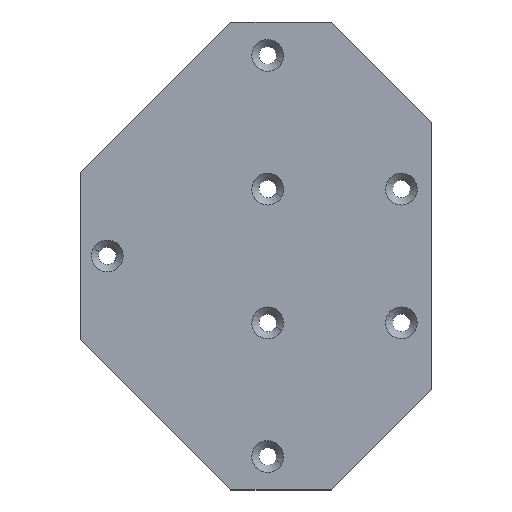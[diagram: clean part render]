
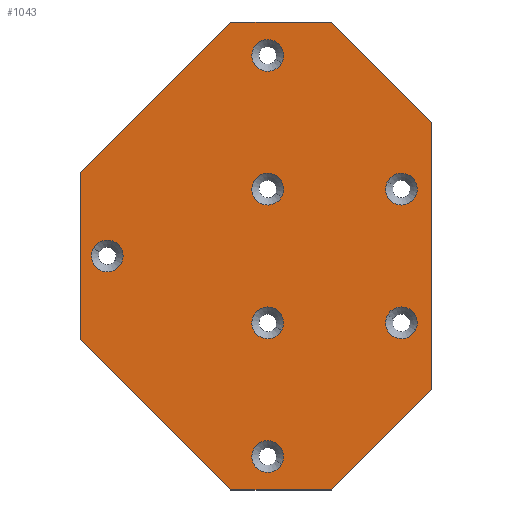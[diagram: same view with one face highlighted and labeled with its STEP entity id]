
A CAD part, top view. The second image highlights one B-rep face of the part: STEP entity #1043.
In plain terms, the highlighted planar face has unit normal (0, 0, 1).
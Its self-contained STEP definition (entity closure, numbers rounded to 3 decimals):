
#134=CARTESIAN_POINT('Vertex',(-50.,25.,6.)) ;
#148=CARTESIAN_POINT('Vertex',(-50.,-25.,6.)) ;
#151=CARTESIAN_POINT('Line Origine',(-50.,0.,6.)) ;
#174=CARTESIAN_POINT('Vertex',(-5.,-70.,6.)) ;
#188=CARTESIAN_POINT('Vertex',(25.,-70.,6.)) ;
#191=CARTESIAN_POINT('Line Origine',(10.,-70.,6.)) ;
#219=CARTESIAN_POINT('Vertex',(55.,-40.,6.)) ;
#222=CARTESIAN_POINT('Line Origine',(40.,-55.,6.)) ;
#250=CARTESIAN_POINT('Vertex',(55.,40.,6.)) ;
#253=CARTESIAN_POINT('Line Origine',(55.,0.,6.)) ;
#281=CARTESIAN_POINT('Vertex',(25.,70.,6.)) ;
#284=CARTESIAN_POINT('Line Origine',(40.,55.,6.)) ;
#307=CARTESIAN_POINT('Vertex',(-5.,70.,6.)) ;
#310=CARTESIAN_POINT('Line Origine',(10.,70.,6.)) ;
#632=CARTESIAN_POINT('Axis2P3D Location',(6.,-60.,6.)) ;
#636=CARTESIAN_POINT('Vertex',(10.169,-62.277,6.)) ;
#638=CARTESIAN_POINT('Vertex',(1.831,-57.723,6.)) ;
#658=CARTESIAN_POINT('Axis2P3D Location',(6.,-60.,6.)) ;
#675=CARTESIAN_POINT('Axis2P3D Location',(6.,60.,6.)) ;
#679=CARTESIAN_POINT('Vertex',(10.169,57.723,6.)) ;
#681=CARTESIAN_POINT('Vertex',(1.831,62.277,6.)) ;
#701=CARTESIAN_POINT('Axis2P3D Location',(6.,60.,6.)) ;
#718=CARTESIAN_POINT('Axis2P3D Location',(-42.,0.,6.)) ;
#722=CARTESIAN_POINT('Vertex',(-37.831,-2.277,6.)) ;
#724=CARTESIAN_POINT('Vertex',(-46.169,2.277,6.)) ;
#744=CARTESIAN_POINT('Axis2P3D Location',(-42.,0.,6.)) ;
#766=CARTESIAN_POINT('Line Origine',(-27.5,47.5,6.)) ;
#788=CARTESIAN_POINT('Line Origine',(-27.5,-47.5,6.)) ;
#805=CARTESIAN_POINT('Axis2P3D Location',(46.,-20.,6.)) ;
#809=CARTESIAN_POINT('Vertex',(50.169,-22.277,6.)) ;
#811=CARTESIAN_POINT('Vertex',(41.831,-17.723,6.)) ;
#853=CARTESIAN_POINT('Axis2P3D Location',(46.,-20.,6.)) ;
#958=CARTESIAN_POINT('Axis2P3D Location',(0.,0.,6.)) ;
#989=CARTESIAN_POINT('Axis2P3D Location',(6.,-20.,6.)) ;
#993=CARTESIAN_POINT('Vertex',(10.169,-22.277,6.)) ;
#995=CARTESIAN_POINT('Vertex',(1.831,-17.723,6.)) ;
#998=CARTESIAN_POINT('Axis2P3D Location',(6.,-20.,6.)) ;
#1007=CARTESIAN_POINT('Axis2P3D Location',(46.,20.,6.)) ;
#1011=CARTESIAN_POINT('Vertex',(50.169,17.723,6.)) ;
#1013=CARTESIAN_POINT('Vertex',(41.831,22.277,6.)) ;
#1016=CARTESIAN_POINT('Axis2P3D Location',(46.,20.,6.)) ;
#1025=CARTESIAN_POINT('Axis2P3D Location',(6.,20.,6.)) ;
#1029=CARTESIAN_POINT('Vertex',(10.169,17.723,6.)) ;
#1031=CARTESIAN_POINT('Vertex',(1.831,22.277,6.)) ;
#1034=CARTESIAN_POINT('Axis2P3D Location',(6.,20.,6.)) ;
#152=DIRECTION('Vector Direction',(0.,1.,0.)) ;
#192=DIRECTION('Vector Direction',(-1.,0.,0.)) ;
#223=DIRECTION('Vector Direction',(-0.707,-0.707,0.)) ;
#254=DIRECTION('Vector Direction',(0.,-1.,0.)) ;
#285=DIRECTION('Vector Direction',(0.707,-0.707,0.)) ;
#311=DIRECTION('Vector Direction',(1.,0.,0.)) ;
#633=DIRECTION('Axis2P3D Direction',(0.,-0.,-1.)) ;
#659=DIRECTION('Axis2P3D Direction',(0.,-0.,-1.)) ;
#676=DIRECTION('Axis2P3D Direction',(0.,0.,-1.)) ;
#702=DIRECTION('Axis2P3D Direction',(0.,0.,-1.)) ;
#719=DIRECTION('Axis2P3D Direction',(0.,-0.,-1.)) ;
#745=DIRECTION('Axis2P3D Direction',(0.,-0.,-1.)) ;
#767=DIRECTION('Vector Direction',(-0.707,-0.707,0.)) ;
#789=DIRECTION('Vector Direction',(-0.707,0.707,0.)) ;
#806=DIRECTION('Axis2P3D Direction',(0.,-0.,-1.)) ;
#854=DIRECTION('Axis2P3D Direction',(0.,-0.,-1.)) ;
#959=DIRECTION('Axis2P3D Direction',(0.,0.,1.)) ;
#960=DIRECTION('Axis2P3D XDirection',(1.,0.,0.)) ;
#990=DIRECTION('Axis2P3D Direction',(0.,0.,1.)) ;
#999=DIRECTION('Axis2P3D Direction',(0.,0.,1.)) ;
#1008=DIRECTION('Axis2P3D Direction',(0.,0.,1.)) ;
#1017=DIRECTION('Axis2P3D Direction',(0.,0.,1.)) ;
#1026=DIRECTION('Axis2P3D Direction',(0.,0.,1.)) ;
#1035=DIRECTION('Axis2P3D Direction',(0.,0.,1.)) ;
#634=AXIS2_PLACEMENT_3D('Circle Axis2P3D',#632,#633,$) ;
#660=AXIS2_PLACEMENT_3D('Circle Axis2P3D',#658,#659,$) ;
#677=AXIS2_PLACEMENT_3D('Circle Axis2P3D',#675,#676,$) ;
#703=AXIS2_PLACEMENT_3D('Circle Axis2P3D',#701,#702,$) ;
#720=AXIS2_PLACEMENT_3D('Circle Axis2P3D',#718,#719,$) ;
#746=AXIS2_PLACEMENT_3D('Circle Axis2P3D',#744,#745,$) ;
#807=AXIS2_PLACEMENT_3D('Circle Axis2P3D',#805,#806,$) ;
#855=AXIS2_PLACEMENT_3D('Circle Axis2P3D',#853,#854,$) ;
#961=AXIS2_PLACEMENT_3D('Plane Axis2P3D',#958,#959,#960) ;
#991=AXIS2_PLACEMENT_3D('Circle Axis2P3D',#989,#990,$) ;
#1000=AXIS2_PLACEMENT_3D('Circle Axis2P3D',#998,#999,$) ;
#1009=AXIS2_PLACEMENT_3D('Circle Axis2P3D',#1007,#1008,$) ;
#1018=AXIS2_PLACEMENT_3D('Circle Axis2P3D',#1016,#1017,$) ;
#1027=AXIS2_PLACEMENT_3D('Circle Axis2P3D',#1025,#1026,$) ;
#1036=AXIS2_PLACEMENT_3D('Circle Axis2P3D',#1034,#1035,$) ;
#964=ORIENTED_EDGE('',*,*,#155,.T.) ;
#965=ORIENTED_EDGE('',*,*,#792,.F.) ;
#966=ORIENTED_EDGE('',*,*,#195,.T.) ;
#967=ORIENTED_EDGE('',*,*,#226,.T.) ;
#968=ORIENTED_EDGE('',*,*,#257,.T.) ;
#969=ORIENTED_EDGE('',*,*,#288,.T.) ;
#970=ORIENTED_EDGE('',*,*,#314,.T.) ;
#971=ORIENTED_EDGE('',*,*,#770,.F.) ;
#974=ORIENTED_EDGE('',*,*,#857,.F.) ;
#975=ORIENTED_EDGE('',*,*,#813,.F.) ;
#978=ORIENTED_EDGE('',*,*,#748,.F.) ;
#979=ORIENTED_EDGE('',*,*,#726,.F.) ;
#982=ORIENTED_EDGE('',*,*,#705,.F.) ;
#983=ORIENTED_EDGE('',*,*,#683,.F.) ;
#986=ORIENTED_EDGE('',*,*,#662,.F.) ;
#987=ORIENTED_EDGE('',*,*,#640,.F.) ;
#1004=ORIENTED_EDGE('',*,*,#997,.F.) ;
#1005=ORIENTED_EDGE('',*,*,#1002,.F.) ;
#1022=ORIENTED_EDGE('',*,*,#1015,.F.) ;
#1023=ORIENTED_EDGE('',*,*,#1020,.F.) ;
#1040=ORIENTED_EDGE('',*,*,#1033,.F.) ;
#1041=ORIENTED_EDGE('',*,*,#1038,.F.) ;
#976=FACE_BOUND('',#973,.T.) ;
#980=FACE_BOUND('',#977,.T.) ;
#984=FACE_BOUND('',#981,.T.) ;
#988=FACE_BOUND('',#985,.T.) ;
#1006=FACE_BOUND('',#1003,.T.) ;
#1024=FACE_BOUND('',#1021,.T.) ;
#1042=FACE_BOUND('',#1039,.T.) ;
#153=VECTOR('Line Direction',#152,1.) ;
#193=VECTOR('Line Direction',#192,1.) ;
#224=VECTOR('Line Direction',#223,1.) ;
#255=VECTOR('Line Direction',#254,1.) ;
#286=VECTOR('Line Direction',#285,1.) ;
#312=VECTOR('Line Direction',#311,1.) ;
#768=VECTOR('Line Direction',#767,1.) ;
#790=VECTOR('Line Direction',#789,1.) ;
#1043=ADVANCED_FACE('PartBody',(#972,#976,#980,#984,#988,#1006,#1024,#1042),#962,.T.) ;
#635=CIRCLE('generated circle',#634,4.75) ;
#661=CIRCLE('generated circle',#660,4.75) ;
#678=CIRCLE('generated circle',#677,4.75) ;
#704=CIRCLE('generated circle',#703,4.75) ;
#721=CIRCLE('generated circle',#720,4.75) ;
#747=CIRCLE('generated circle',#746,4.75) ;
#808=CIRCLE('generated circle',#807,4.75) ;
#856=CIRCLE('generated circle',#855,4.75) ;
#992=CIRCLE('generated circle',#991,4.75) ;
#1001=CIRCLE('generated circle',#1000,4.75) ;
#1010=CIRCLE('generated circle',#1009,4.75) ;
#1019=CIRCLE('generated circle',#1018,4.75) ;
#1028=CIRCLE('generated circle',#1027,4.75) ;
#1037=CIRCLE('generated circle',#1036,4.75) ;
#155=EDGE_CURVE('',#135,#149,#154,.F.) ;
#195=EDGE_CURVE('',#175,#189,#194,.F.) ;
#226=EDGE_CURVE('',#189,#220,#225,.F.) ;
#257=EDGE_CURVE('',#220,#251,#256,.F.) ;
#288=EDGE_CURVE('',#251,#282,#287,.F.) ;
#314=EDGE_CURVE('',#282,#308,#313,.F.) ;
#640=EDGE_CURVE('',#637,#639,#635,.F.) ;
#662=EDGE_CURVE('',#639,#637,#661,.F.) ;
#683=EDGE_CURVE('',#680,#682,#678,.F.) ;
#705=EDGE_CURVE('',#682,#680,#704,.F.) ;
#726=EDGE_CURVE('',#723,#725,#721,.F.) ;
#748=EDGE_CURVE('',#725,#723,#747,.F.) ;
#770=EDGE_CURVE('',#135,#308,#769,.F.) ;
#792=EDGE_CURVE('',#175,#149,#791,.T.) ;
#813=EDGE_CURVE('',#810,#812,#808,.F.) ;
#857=EDGE_CURVE('',#812,#810,#856,.F.) ;
#997=EDGE_CURVE('',#994,#996,#992,.T.) ;
#1002=EDGE_CURVE('',#996,#994,#1001,.T.) ;
#1015=EDGE_CURVE('',#1012,#1014,#1010,.T.) ;
#1020=EDGE_CURVE('',#1014,#1012,#1019,.T.) ;
#1033=EDGE_CURVE('',#1030,#1032,#1028,.T.) ;
#1038=EDGE_CURVE('',#1032,#1030,#1037,.T.) ;
#963=EDGE_LOOP('',(#964,#965,#966,#967,#968,#969,#970,#971)) ;
#973=EDGE_LOOP('',(#974,#975)) ;
#977=EDGE_LOOP('',(#978,#979)) ;
#981=EDGE_LOOP('',(#982,#983)) ;
#985=EDGE_LOOP('',(#986,#987)) ;
#1003=EDGE_LOOP('',(#1004,#1005)) ;
#1021=EDGE_LOOP('',(#1022,#1023)) ;
#1039=EDGE_LOOP('',(#1040,#1041)) ;
#972=FACE_OUTER_BOUND('',#963,.T.) ;
#154=LINE('Line',#151,#153) ;
#194=LINE('Line',#191,#193) ;
#225=LINE('Line',#222,#224) ;
#256=LINE('Line',#253,#255) ;
#287=LINE('Line',#284,#286) ;
#313=LINE('Line',#310,#312) ;
#769=LINE('Line',#766,#768) ;
#791=LINE('Line',#788,#790) ;
#962=PLANE('Plane',#961) ;
#135=VERTEX_POINT('',#134) ;
#149=VERTEX_POINT('',#148) ;
#175=VERTEX_POINT('',#174) ;
#189=VERTEX_POINT('',#188) ;
#220=VERTEX_POINT('',#219) ;
#251=VERTEX_POINT('',#250) ;
#282=VERTEX_POINT('',#281) ;
#308=VERTEX_POINT('',#307) ;
#637=VERTEX_POINT('',#636) ;
#639=VERTEX_POINT('',#638) ;
#680=VERTEX_POINT('',#679) ;
#682=VERTEX_POINT('',#681) ;
#723=VERTEX_POINT('',#722) ;
#725=VERTEX_POINT('',#724) ;
#810=VERTEX_POINT('',#809) ;
#812=VERTEX_POINT('',#811) ;
#994=VERTEX_POINT('',#993) ;
#996=VERTEX_POINT('',#995) ;
#1012=VERTEX_POINT('',#1011) ;
#1014=VERTEX_POINT('',#1013) ;
#1030=VERTEX_POINT('',#1029) ;
#1032=VERTEX_POINT('',#1031) ;
